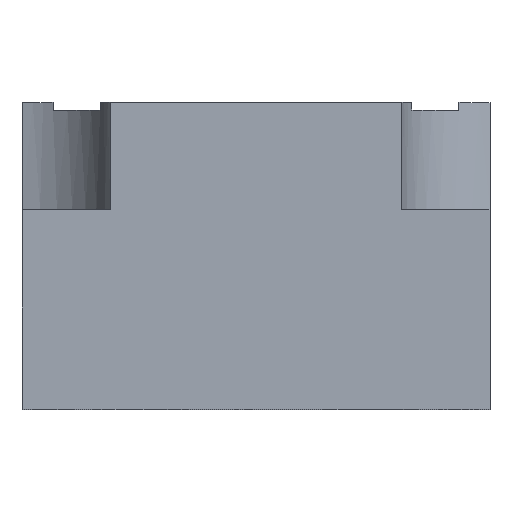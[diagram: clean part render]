
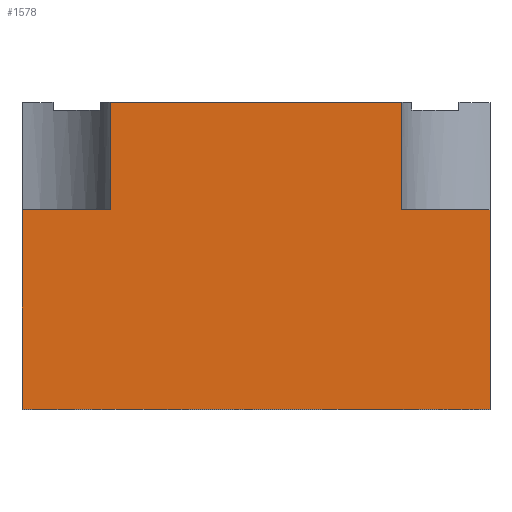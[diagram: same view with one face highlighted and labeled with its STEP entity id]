
A CAD part, top view. The second image highlights one B-rep face of the part: STEP entity #1578.
In plain terms, the highlighted planar face has unit normal (0, 0, 1).
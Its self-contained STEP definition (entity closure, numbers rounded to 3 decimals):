
#175=DIRECTION('',(1.,0.,0.));
#176=VECTOR('',#175,11.5);
#177=CARTESIAN_POINT('',(0.,26.,30.));
#178=LINE('',#177,#176);
#182=DIRECTION('',(0.,-1.,0.));
#183=VECTOR('',#182,14.);
#184=CARTESIAN_POINT('',(11.5,40.,30.));
#185=LINE('',#184,#183);
#189=DIRECTION('',(-1.,0.,0.));
#190=VECTOR('',#189,38.);
#191=CARTESIAN_POINT('',(49.5,40.,30.));
#192=LINE('',#191,#190);
#196=DIRECTION('',(0.,-1.,0.));
#197=VECTOR('',#196,14.);
#198=CARTESIAN_POINT('',(49.5,40.,30.));
#199=LINE('',#198,#197);
#203=DIRECTION('',(1.,0.,0.));
#204=VECTOR('',#203,11.5);
#205=CARTESIAN_POINT('',(49.5,26.,30.));
#206=LINE('',#205,#204);
#210=DIRECTION('',(0.,1.,0.));
#211=VECTOR('',#210,26.);
#212=CARTESIAN_POINT('',(61.,0.,30.));
#213=LINE('',#212,#211);
#217=DIRECTION('',(1.,0.,0.));
#218=VECTOR('',#217,61.);
#219=CARTESIAN_POINT('',(0.,0.,30.));
#220=LINE('',#219,#218);
#224=DIRECTION('',(0.,-1.,0.));
#225=VECTOR('',#224,26.);
#226=CARTESIAN_POINT('',(0.,26.,30.));
#227=LINE('',#226,#225);
#1195=CARTESIAN_POINT('',(0.,0.,30.));
#1196=CARTESIAN_POINT('',(61.,0.,30.));
#1197=VERTEX_POINT('',#1195);
#1198=VERTEX_POINT('',#1196);
#1316=CARTESIAN_POINT('',(11.5,26.,30.));
#1318=VERTEX_POINT('',#1316);
#1319=CARTESIAN_POINT('',(49.5,26.,30.));
#1321=VERTEX_POINT('',#1319);
#1323=CARTESIAN_POINT('',(0.,26.,30.));
#1324=VERTEX_POINT('',#1323);
#1325=CARTESIAN_POINT('',(61.,26.,30.));
#1326=VERTEX_POINT('',#1325);
#1327=CARTESIAN_POINT('',(11.5,40.,30.));
#1328=VERTEX_POINT('',#1327);
#1329=CARTESIAN_POINT('',(49.5,40.,30.));
#1330=VERTEX_POINT('',#1329);
#1558=CARTESIAN_POINT('',(0.,0.,30.));
#1559=DIRECTION('',(0.,0.,1.));
#1560=DIRECTION('',(1.,0.,0.));
#1561=AXIS2_PLACEMENT_3D('',#1558,#1559,#1560);
#1562=PLANE('',#1561);
#1563=ORIENTED_EDGE('',*,*,#1525,.T.);
#1564=ORIENTED_EDGE('',*,*,#1514,.F.);
#1566=ORIENTED_EDGE('',*,*,#1565,.F.);
#1568=ORIENTED_EDGE('',*,*,#1567,.T.);
#1569=ORIENTED_EDGE('',*,*,#1547,.T.);
#1571=ORIENTED_EDGE('',*,*,#1570,.F.);
#1573=ORIENTED_EDGE('',*,*,#1572,.F.);
#1575=ORIENTED_EDGE('',*,*,#1574,.F.);
#1576=EDGE_LOOP('',(#1563,#1564,#1566,#1568,#1569,#1571,#1573,#1575));
#1577=FACE_OUTER_BOUND('',#1576,.F.);
#1514=EDGE_CURVE('',#1328,#1318,#185,.T.);
#1525=EDGE_CURVE('',#1324,#1318,#178,.T.);
#1547=EDGE_CURVE('',#1321,#1326,#206,.T.);
#1565=EDGE_CURVE('',#1330,#1328,#192,.T.);
#1567=EDGE_CURVE('',#1330,#1321,#199,.T.);
#1570=EDGE_CURVE('',#1198,#1326,#213,.T.);
#1572=EDGE_CURVE('',#1197,#1198,#220,.T.);
#1574=EDGE_CURVE('',#1324,#1197,#227,.T.);
#1578=ADVANCED_FACE('',(#1577),#1562,.T.);
